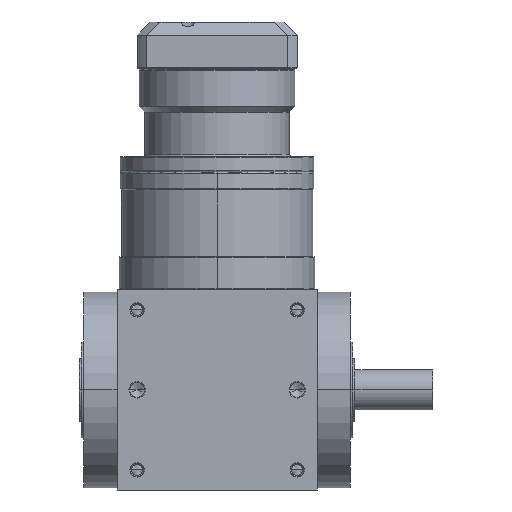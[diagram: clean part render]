
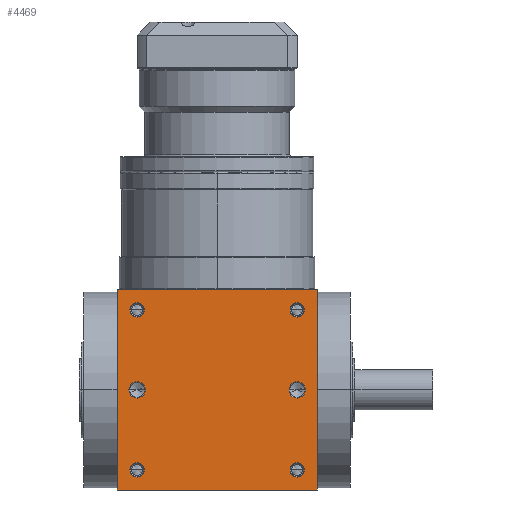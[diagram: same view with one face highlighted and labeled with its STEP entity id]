
A CAD part, front view. The second image highlights one B-rep face of the part: STEP entity #4469.
In plain terms, the highlighted planar face has unit normal (0, -1, 0).
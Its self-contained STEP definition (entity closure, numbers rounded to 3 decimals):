
#5=DIRECTION('',(1.,0.,0.));
#6=VECTOR('',#5,90.);
#7=CARTESIAN_POINT('',(-45.,-45.,-45.));
#8=LINE('',#7,#6);
#155=DIRECTION('',(0.,0.,1.));
#156=VECTOR('',#155,90.);
#157=CARTESIAN_POINT('',(45.,-45.,-45.));
#158=LINE('',#157,#156);
#209=DIRECTION('',(0.,0.,1.));
#210=VECTOR('',#209,90.);
#211=CARTESIAN_POINT('',(-45.,-45.,-45.));
#212=LINE('',#211,#210);
#213=CARTESIAN_POINT('',(36.,-45.,36.));
#214=DIRECTION('',(0.,1.,0.));
#215=DIRECTION('',(-1.,0.,0.));
#216=AXIS2_PLACEMENT_3D('',#213,#214,#215);
#218=CARTESIAN_POINT('',(36.,-45.,36.));
#219=DIRECTION('',(0.,1.,0.));
#220=DIRECTION('',(1.,0.,0.));
#221=AXIS2_PLACEMENT_3D('',#218,#219,#220);
#223=CARTESIAN_POINT('',(-36.,-45.,36.));
#224=DIRECTION('',(0.,1.,0.));
#225=DIRECTION('',(-1.,0.,0.));
#226=AXIS2_PLACEMENT_3D('',#223,#224,#225);
#228=CARTESIAN_POINT('',(-36.,-45.,36.));
#229=DIRECTION('',(0.,1.,0.));
#230=DIRECTION('',(1.,0.,0.));
#231=AXIS2_PLACEMENT_3D('',#228,#229,#230);
#233=CARTESIAN_POINT('',(36.,-45.,-36.));
#234=DIRECTION('',(0.,1.,0.));
#235=DIRECTION('',(-1.,0.,0.));
#236=AXIS2_PLACEMENT_3D('',#233,#234,#235);
#238=CARTESIAN_POINT('',(36.,-45.,-36.));
#239=DIRECTION('',(0.,1.,0.));
#240=DIRECTION('',(1.,0.,0.));
#241=AXIS2_PLACEMENT_3D('',#238,#239,#240);
#243=CARTESIAN_POINT('',(-36.,-45.,-36.));
#244=DIRECTION('',(0.,1.,0.));
#245=DIRECTION('',(-1.,0.,0.));
#246=AXIS2_PLACEMENT_3D('',#243,#244,#245);
#248=CARTESIAN_POINT('',(-36.,-45.,-36.));
#249=DIRECTION('',(0.,1.,0.));
#250=DIRECTION('',(1.,0.,0.));
#251=AXIS2_PLACEMENT_3D('',#248,#249,#250);
#253=CARTESIAN_POINT('',(-36.,-45.,0.));
#254=DIRECTION('',(0.,1.,0.));
#255=DIRECTION('',(1.,0.,0.));
#256=AXIS2_PLACEMENT_3D('',#253,#254,#255);
#258=CARTESIAN_POINT('',(-36.,-45.,0.));
#259=DIRECTION('',(0.,1.,0.));
#260=DIRECTION('',(-1.,0.,0.));
#261=AXIS2_PLACEMENT_3D('',#258,#259,#260);
#263=CARTESIAN_POINT('',(36.,-45.,0.));
#264=DIRECTION('',(0.,1.,0.));
#265=DIRECTION('',(1.,0.,0.));
#266=AXIS2_PLACEMENT_3D('',#263,#264,#265);
#268=CARTESIAN_POINT('',(36.,-45.,0.));
#269=DIRECTION('',(0.,1.,0.));
#270=DIRECTION('',(-1.,0.,0.));
#271=AXIS2_PLACEMENT_3D('',#268,#269,#270);
#285=DIRECTION('',(1.,0.,0.));
#286=VECTOR('',#285,90.);
#287=CARTESIAN_POINT('',(-45.,-45.,45.));
#288=LINE('',#287,#286);
#3570=CARTESIAN_POINT('',(-45.,-45.,-45.));
#3572=VERTEX_POINT('',#3570);
#3573=CARTESIAN_POINT('',(45.,-45.,-45.));
#3574=VERTEX_POINT('',#3573);
#3578=CARTESIAN_POINT('',(-45.,-45.,45.));
#3580=VERTEX_POINT('',#3578);
#3581=CARTESIAN_POINT('',(45.,-45.,45.));
#3582=VERTEX_POINT('',#3581);
#3753=CARTESIAN_POINT('',(32.8,-45.,36.));
#3754=CARTESIAN_POINT('',(39.2,-45.,36.));
#3755=VERTEX_POINT('',#3753);
#3756=VERTEX_POINT('',#3754);
#3761=CARTESIAN_POINT('',(-39.2,-45.,36.));
#3762=CARTESIAN_POINT('',(-32.8,-45.,36.));
#3763=VERTEX_POINT('',#3761);
#3764=VERTEX_POINT('',#3762);
#3769=CARTESIAN_POINT('',(32.8,-45.,-36.));
#3770=CARTESIAN_POINT('',(39.2,-45.,-36.));
#3771=VERTEX_POINT('',#3769);
#3772=VERTEX_POINT('',#3770);
#3777=CARTESIAN_POINT('',(-39.2,-45.,-36.));
#3778=CARTESIAN_POINT('',(-32.8,-45.,-36.));
#3779=VERTEX_POINT('',#3777);
#3780=VERTEX_POINT('',#3778);
#4101=CARTESIAN_POINT('',(-32.35,-45.,0.));
#4102=CARTESIAN_POINT('',(-39.65,-45.,0.));
#4103=VERTEX_POINT('',#4101);
#4104=VERTEX_POINT('',#4102);
#4109=CARTESIAN_POINT('',(39.65,-45.,0.));
#4110=CARTESIAN_POINT('',(32.35,-45.,0.));
#4111=VERTEX_POINT('',#4109);
#4112=VERTEX_POINT('',#4110);
#4421=CARTESIAN_POINT('',(-45.,-45.,-45.));
#4422=DIRECTION('',(0.,-1.,0.));
#4423=DIRECTION('',(1.,0.,0.));
#4424=AXIS2_PLACEMENT_3D('',#4421,#4422,#4423);
#4425=PLANE('',#4424);
#4426=ORIENTED_EDGE('',*,*,#4261,.F.);
#4427=ORIENTED_EDGE('',*,*,#4304,.T.);
#4429=ORIENTED_EDGE('',*,*,#4428,.T.);
#4430=ORIENTED_EDGE('',*,*,#4383,.F.);
#4431=EDGE_LOOP('',(#4426,#4427,#4429,#4430));
#4432=FACE_OUTER_BOUND('',#4431,.F.);
#4434=ORIENTED_EDGE('',*,*,#4433,.F.);
#4436=ORIENTED_EDGE('',*,*,#4435,.F.);
#4437=EDGE_LOOP('',(#4434,#4436));
#4438=FACE_BOUND('',#4437,.F.);
#4440=ORIENTED_EDGE('',*,*,#4439,.F.);
#4442=ORIENTED_EDGE('',*,*,#4441,.F.);
#4443=EDGE_LOOP('',(#4440,#4442));
#4444=FACE_BOUND('',#4443,.F.);
#4446=ORIENTED_EDGE('',*,*,#4445,.F.);
#4448=ORIENTED_EDGE('',*,*,#4447,.F.);
#4449=EDGE_LOOP('',(#4446,#4448));
#4450=FACE_BOUND('',#4449,.F.);
#4452=ORIENTED_EDGE('',*,*,#4451,.F.);
#4454=ORIENTED_EDGE('',*,*,#4453,.F.);
#4455=EDGE_LOOP('',(#4452,#4454));
#4456=FACE_BOUND('',#4455,.F.);
#4458=ORIENTED_EDGE('',*,*,#4457,.F.);
#4460=ORIENTED_EDGE('',*,*,#4459,.F.);
#4461=EDGE_LOOP('',(#4458,#4460));
#4462=FACE_BOUND('',#4461,.F.);
#4464=ORIENTED_EDGE('',*,*,#4463,.F.);
#4466=ORIENTED_EDGE('',*,*,#4465,.F.);
#4467=EDGE_LOOP('',(#4464,#4466));
#4468=FACE_BOUND('',#4467,.F.);
#4469=ADVANCED_FACE('',(#4432,#4438,#4444,#4450,#4456,#4462,#4468),#4425,.T.);
#217=CIRCLE('',#216,3.2);
#222=CIRCLE('',#221,3.2);
#227=CIRCLE('',#226,3.2);
#232=CIRCLE('',#231,3.2);
#237=CIRCLE('',#236,3.2);
#242=CIRCLE('',#241,3.2);
#247=CIRCLE('',#246,3.2);
#252=CIRCLE('',#251,3.2);
#257=CIRCLE('',#256,3.65);
#262=CIRCLE('',#261,3.65);
#267=CIRCLE('',#266,3.65);
#272=CIRCLE('',#271,3.65);
#4261=EDGE_CURVE('',#3572,#3574,#8,.T.);
#4304=EDGE_CURVE('',#3572,#3580,#212,.T.);
#4383=EDGE_CURVE('',#3574,#3582,#158,.T.);
#4428=EDGE_CURVE('',#3580,#3582,#288,.T.);
#4433=EDGE_CURVE('',#3755,#3756,#217,.T.);
#4435=EDGE_CURVE('',#3756,#3755,#222,.T.);
#4439=EDGE_CURVE('',#3763,#3764,#227,.T.);
#4441=EDGE_CURVE('',#3764,#3763,#232,.T.);
#4445=EDGE_CURVE('',#3771,#3772,#237,.T.);
#4447=EDGE_CURVE('',#3772,#3771,#242,.T.);
#4451=EDGE_CURVE('',#3779,#3780,#247,.T.);
#4453=EDGE_CURVE('',#3780,#3779,#252,.T.);
#4457=EDGE_CURVE('',#4103,#4104,#257,.T.);
#4459=EDGE_CURVE('',#4104,#4103,#262,.T.);
#4463=EDGE_CURVE('',#4111,#4112,#267,.T.);
#4465=EDGE_CURVE('',#4112,#4111,#272,.T.);
